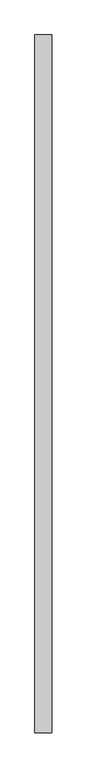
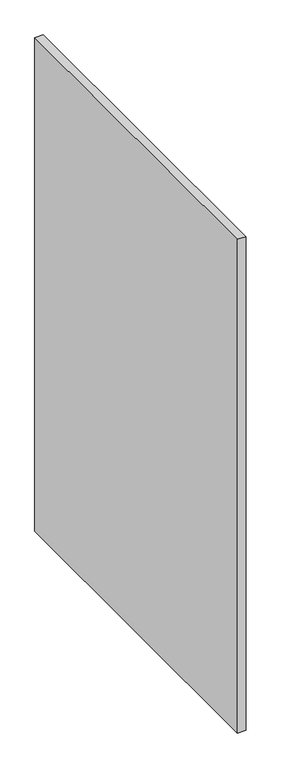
"""IFC4 building model written with IfcOpenShell, lengths in millimetres: furniture geometry, Divisoria_Lateral Fechada : Divisoria_Lateral Fechada_130x180."""

from ifc_helpers import new_model, si_unit, frame, origin, place, context, project, spatial, polyline, outline, extrude, source, transform, mapped, element, save


def furniture_6fa5bce5(model_context):
    return source(origin(), model_context, "Body", "SweptSolid", [
        extrude(outline(polyline([(59.7003264, -50.0), (29.7003264, -50.0), (29.7003264, 1195.5757206), (59.7003264, 1195.5757206), (59.7003264, -50.0)])), frame((0.0, 0.0, 50.0), z_axis=(0.0, 0.0, 1.0), x_axis=(1.0, 0.0, 0.0)), (0.0, 0.0, 1.0), 1850.0),
    ])


if __name__ == "__main__":
    model = new_model("IFC4")
    model_context = context("Model", 3, world=origin())
    ifc_project = project(units=[si_unit("LENGTHUNIT", "METRE", prefix="MILLI")], contexts=[model_context])
    site = spatial("IfcSite", under=ifc_project)
    building = spatial("IfcBuilding", under=site)
    placement = place(None, origin())
    furniture_shape = furniture_6fa5bce5(model_context)
    element("IfcFurniture", 1, ObjectType="Divisoria_Lateral Fechada : Divisoria_Lateral Fechada_130x180", at=placement, inside=building, context=model_context, shape_type="MappedRepresentation", body=[
        mapped(furniture_shape, transform((0.0, 0.0, 0.0), x_axis=(1.0, 0.0, 0.0), y_axis=(0.0, 1.0, 0.0), z_axis=(0.0, 0.0, 1.0))),
    ])
    save(model, "model.ifc")
